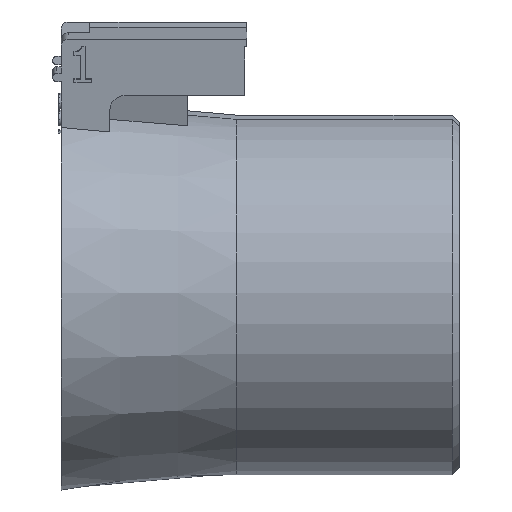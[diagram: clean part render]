
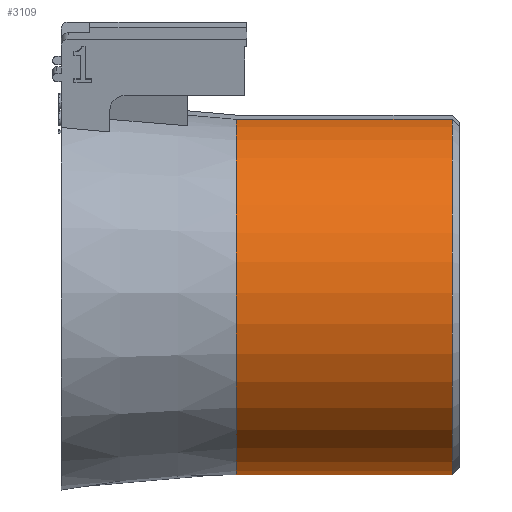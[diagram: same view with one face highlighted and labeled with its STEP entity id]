
A CAD part, front view. The second image highlights one B-rep face of the part: STEP entity #3109.
In plain terms, the highlighted cylindrical face has radius 12.5 mm (diameter 25 mm), a partial arc.
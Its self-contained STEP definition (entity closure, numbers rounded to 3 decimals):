
#60=CIRCLE('',#3293,12.5);
#68=CIRCLE('',#3311,12.5);
#105=CYLINDRICAL_SURFACE('',#3310,12.5);
#469=FACE_OUTER_BOUND('',#637,.T.);
#637=EDGE_LOOP('',(#2769,#2770,#2771,#2772));
#817=LINE('',#4702,#1147);
#973=LINE('',#5122,#1303);
#1147=VECTOR('',#3619,10.);
#1303=VECTOR('',#3949,10.);
#1506=VERTEX_POINT('',#4699);
#1507=VERTEX_POINT('',#4701);
#1617=VERTEX_POINT('',#5023);
#1646=VERTEX_POINT('',#5121);
#1849=EDGE_CURVE('',#1507,#1506,#817,.T.);
#2004=EDGE_CURVE('',#1617,#1506,#60,.T.);
#2045=EDGE_CURVE('',#1646,#1617,#973,.T.);
#2046=EDGE_CURVE('',#1507,#1646,#68,.T.);
#2769=ORIENTED_EDGE('',*,*,#2045,.F.);
#2770=ORIENTED_EDGE('',*,*,#2046,.F.);
#2771=ORIENTED_EDGE('',*,*,#1849,.T.);
#2772=ORIENTED_EDGE('',*,*,#2004,.F.);
#3109=ADVANCED_FACE('',(#469),#105,.T.);
#3293=AXIS2_PLACEMENT_3D('',#5036,#3884,#3885);
#3310=AXIS2_PLACEMENT_3D('',#5120,#3947,#3948);
#3311=AXIS2_PLACEMENT_3D('',#5123,#3950,#3951);
#3619=DIRECTION('',(-1.,0.,0.));
#3884=DIRECTION('center_axis',(-1.,0.,0.));
#3885=DIRECTION('ref_axis',(0.,-0.985,-0.174));
#3947=DIRECTION('center_axis',(-1.,0.,0.));
#3948=DIRECTION('ref_axis',(0.,-0.985,-0.174));
#3949=DIRECTION('',(-1.,0.,0.));
#3950=DIRECTION('center_axis',(1.,0.,0.));
#3951=DIRECTION('ref_axis',(0.,0.985,0.174));
#4699=CARTESIAN_POINT('',(11.43,-3.456,12.198));
#4701=CARTESIAN_POINT('',(26.5,-3.456,12.198));
#4702=CARTESIAN_POINT('',(19.215,-3.456,12.198));
#5023=CARTESIAN_POINT('',(11.43,0.445,-12.492));
#5036=CARTESIAN_POINT('Origin',(11.43,-1.285,-0.112));
#5120=CARTESIAN_POINT('Origin',(19.215,-1.285,-0.112));
#5121=CARTESIAN_POINT('',(26.5,0.445,-12.492));
#5122=CARTESIAN_POINT('',(19.215,0.445,-12.492));
#5123=CARTESIAN_POINT('Origin',(26.5,-1.285,-0.112));
